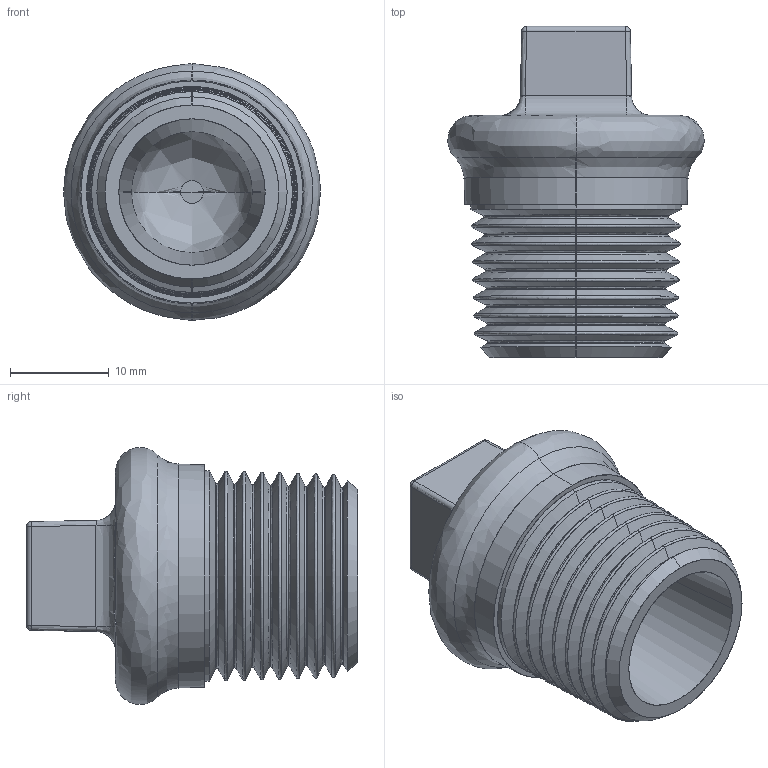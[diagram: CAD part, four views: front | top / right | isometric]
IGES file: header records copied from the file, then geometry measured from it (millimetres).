
Start section: SolidWorks IGES file using analytic representation for surfaces
Global section: file name: C:\Users\Joel Rosa\Desktop\Tubulação\12-03-OK\12-03-004.IGS; native system: SolidWorks 2011; preprocessor: SolidWorks 2011; author: Joel Rosa; date: 121203.234515; units: millimetre
Bounding box: 25.99 x 33.5 x 25.99 mm (x, y, z)
Surface area: 4139.6 mm2 (no closed solid volume)
Topology: 0 solids, 0 shells, 218 faces, 1801 edges, 1799 vertices
Faces by surface type: bspline 159, revolution 59
